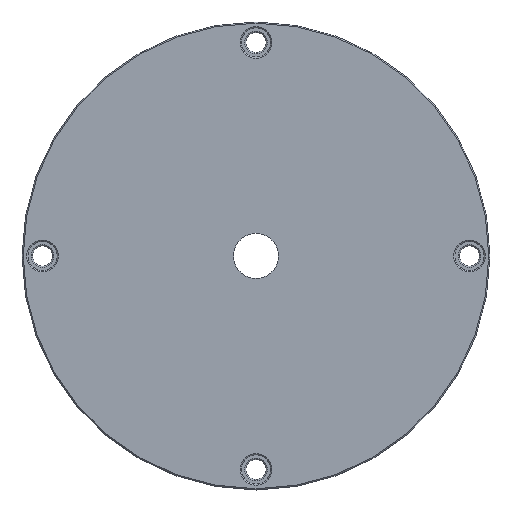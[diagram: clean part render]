
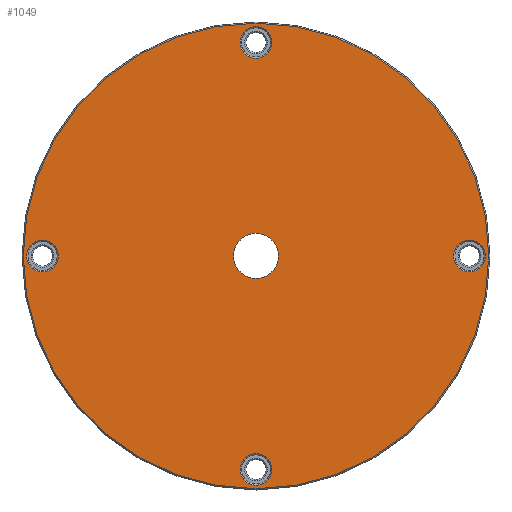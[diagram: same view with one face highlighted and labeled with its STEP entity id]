
A CAD part, top view. The second image highlights one B-rep face of the part: STEP entity #1049.
In plain terms, the highlighted planar face has unit normal (0, 0, 1).
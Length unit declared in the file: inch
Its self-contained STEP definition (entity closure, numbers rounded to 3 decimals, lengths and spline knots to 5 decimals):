
#154=CARTESIAN_POINT('',(0.,0.,
0.));
#155=DIRECTION('',(0.,0.,1.));
#156=DIRECTION('',(0.,1.,0.));
#157=AXIS2_PLACEMENT_3D('',#154,#155,#156);
#159=CARTESIAN_POINT('',(0.,0.,0.));
#160=DIRECTION('',(0.,0.,1.));
#161=DIRECTION('',(0.,-1.,0.));
#162=AXIS2_PLACEMENT_3D('',#159,#160,#161);
#164=CARTESIAN_POINT('',(0.,0.,0.));
#165=DIRECTION('',(0.,0.,-1.));
#166=DIRECTION('',(0.,1.,0.));
#167=AXIS2_PLACEMENT_3D('',#164,#165,#166);
#169=CARTESIAN_POINT('',(0.,0.,0.));
#170=DIRECTION('',(0.,0.,-1.));
#171=DIRECTION('',(0.,-1.,0.));
#172=AXIS2_PLACEMENT_3D('',#169,#170,#171);
#174=CARTESIAN_POINT('',(3.65,0.,0.));
#175=DIRECTION('',(0.,0.,-1.));
#176=DIRECTION('',(1.,0.,0.));
#177=AXIS2_PLACEMENT_3D('',#174,#175,#176);
#179=CARTESIAN_POINT('',(3.65,0.,0.));
#180=DIRECTION('',(0.,0.,-1.));
#181=DIRECTION('',(-1.,0.,0.));
#182=AXIS2_PLACEMENT_3D('',#179,#180,#181);
#184=CARTESIAN_POINT('',(0.,3.65,0.));
#185=DIRECTION('',(0.,0.,-1.));
#186=DIRECTION('',(1.,0.,0.));
#187=AXIS2_PLACEMENT_3D('',#184,#185,#186);
#189=CARTESIAN_POINT('',(0.,3.65,0.));
#190=DIRECTION('',(0.,0.,-1.));
#191=DIRECTION('',(-1.,0.,0.));
#192=AXIS2_PLACEMENT_3D('',#189,#190,#191);
#194=CARTESIAN_POINT('',(-3.65,0.,0.));
#195=DIRECTION('',(0.,0.,-1.));
#196=DIRECTION('',(1.,0.,0.));
#197=AXIS2_PLACEMENT_3D('',#194,#195,#196);
#199=CARTESIAN_POINT('',(-3.65,0.,0.));
#200=DIRECTION('',(0.,0.,-1.));
#201=DIRECTION('',(-1.,0.,0.));
#202=AXIS2_PLACEMENT_3D('',#199,#200,#201);
#204=CARTESIAN_POINT('',(0.,-3.65,0.));
#205=DIRECTION('',(0.,0.,-1.));
#206=DIRECTION('',(1.,0.,0.));
#207=AXIS2_PLACEMENT_3D('',#204,#205,#206);
#209=CARTESIAN_POINT('',(0.,-3.65,0.));
#210=DIRECTION('',(0.,0.,-1.));
#211=DIRECTION('',(-1.,0.,0.));
#212=AXIS2_PLACEMENT_3D('',#209,#210,#211);
#658=CARTESIAN_POINT('',(0.,0.385,0.));
#659=CARTESIAN_POINT('',(0.,-0.385,0.));
#660=VERTEX_POINT('',#658);
#661=VERTEX_POINT('',#659);
#686=CARTESIAN_POINT('',(0.,3.98,0.));
#687=CARTESIAN_POINT('',(0.,-3.98,0.));
#688=VERTEX_POINT('',#686);
#689=VERTEX_POINT('',#687);
#730=CARTESIAN_POINT('',(3.92,0.,0.));
#731=CARTESIAN_POINT('',(3.38,0.,0.));
#732=VERTEX_POINT('',#730);
#733=VERTEX_POINT('',#731);
#758=CARTESIAN_POINT('',(0.27,3.65,0.));
#759=CARTESIAN_POINT('',(-0.27,3.65,0.));
#760=VERTEX_POINT('',#758);
#761=VERTEX_POINT('',#759);
#786=CARTESIAN_POINT('',(-3.38,0.,0.));
#787=CARTESIAN_POINT('',(-3.92,0.,0.));
#788=VERTEX_POINT('',#786);
#789=VERTEX_POINT('',#787);
#814=CARTESIAN_POINT('',(0.27,-3.65,0.));
#815=CARTESIAN_POINT('',(-0.27,-3.65,0.));
#816=VERTEX_POINT('',#814);
#817=VERTEX_POINT('',#815);
#1009=CARTESIAN_POINT('',(0.,0.,0.));
#1010=DIRECTION('',(0.,0.,-1.));
#1011=DIRECTION('',(0.,-1.,0.));
#1012=AXIS2_PLACEMENT_3D('',#1009,#1010,#1011);
#1013=PLANE('',#1012);
#1014=ORIENTED_EDGE('',*,*,#999,.F.);
#1016=ORIENTED_EDGE('',*,*,#1015,.F.);
#1017=EDGE_LOOP('',(#1014,#1016));
#1018=FACE_OUTER_BOUND('',#1017,.F.);
#1020=ORIENTED_EDGE('',*,*,#1019,.F.);
#1022=ORIENTED_EDGE('',*,*,#1021,.F.);
#1023=EDGE_LOOP('',(#1020,#1022));
#1024=FACE_BOUND('',#1023,.F.);
#1026=ORIENTED_EDGE('',*,*,#1025,.F.);
#1028=ORIENTED_EDGE('',*,*,#1027,.F.);
#1029=EDGE_LOOP('',(#1026,#1028));
#1030=FACE_BOUND('',#1029,.F.);
#1032=ORIENTED_EDGE('',*,*,#1031,.F.);
#1034=ORIENTED_EDGE('',*,*,#1033,.F.);
#1035=EDGE_LOOP('',(#1032,#1034));
#1036=FACE_BOUND('',#1035,.F.);
#1038=ORIENTED_EDGE('',*,*,#1037,.F.);
#1040=ORIENTED_EDGE('',*,*,#1039,.F.);
#1041=EDGE_LOOP('',(#1038,#1040));
#1042=FACE_BOUND('',#1041,.F.);
#1044=ORIENTED_EDGE('',*,*,#1043,.F.);
#1046=ORIENTED_EDGE('',*,*,#1045,.F.);
#1047=EDGE_LOOP('',(#1044,#1046));
#1048=FACE_BOUND('',#1047,.F.);
#1049=ADVANCED_FACE('',(#1018,#1024,#1030,#1036,#1042,#1048),#1013,.F.);
#158=CIRCLE('',#157,3.98);
#163=CIRCLE('',#162,3.98);
#168=CIRCLE('',#167,0.385);
#173=CIRCLE('',#172,0.385);
#178=CIRCLE('',#177,0.27);
#183=CIRCLE('',#182,0.27);
#188=CIRCLE('',#187,0.27);
#193=CIRCLE('',#192,0.27);
#198=CIRCLE('',#197,0.27);
#203=CIRCLE('',#202,0.27);
#208=CIRCLE('',#207,0.27);
#213=CIRCLE('',#212,0.27);
#999=EDGE_CURVE('',#688,#689,#158,.T.);
#1015=EDGE_CURVE('',#689,#688,#163,.T.);
#1019=EDGE_CURVE('',#660,#661,#168,.T.);
#1021=EDGE_CURVE('',#661,#660,#173,.T.);
#1025=EDGE_CURVE('',#732,#733,#178,.T.);
#1027=EDGE_CURVE('',#733,#732,#183,.T.);
#1031=EDGE_CURVE('',#760,#761,#188,.T.);
#1033=EDGE_CURVE('',#761,#760,#193,.T.);
#1037=EDGE_CURVE('',#788,#789,#198,.T.);
#1039=EDGE_CURVE('',#789,#788,#203,.T.);
#1043=EDGE_CURVE('',#816,#817,#208,.T.);
#1045=EDGE_CURVE('',#817,#816,#213,.T.);
